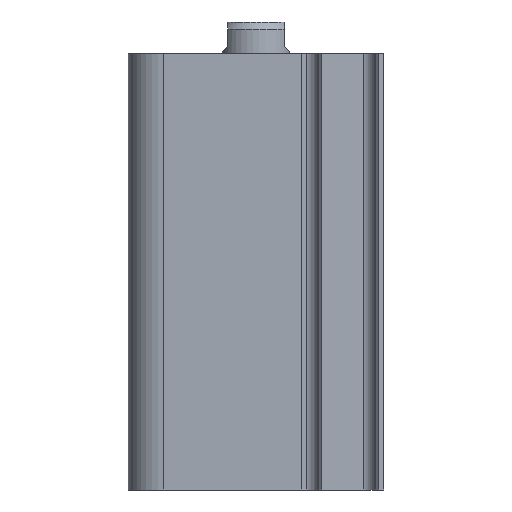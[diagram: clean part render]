
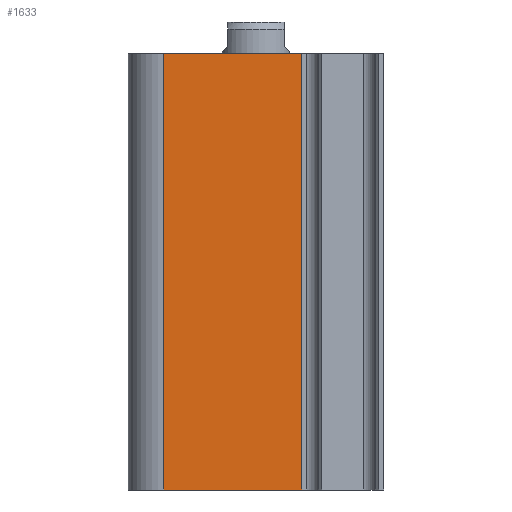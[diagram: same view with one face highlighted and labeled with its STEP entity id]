
A CAD part, front view. The second image highlights one B-rep face of the part: STEP entity #1633.
In plain terms, the highlighted planar face has unit normal (0, -1, 0).
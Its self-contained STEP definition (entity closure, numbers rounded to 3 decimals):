
#123 = ORIENTED_EDGE ( 'NONE', *, *, #2606, .T. ) ;
#443 = DIRECTION ( 'NONE',  ( 0., 0., 1. ) ) ;
#463 = VERTEX_POINT ( 'NONE', #2630 ) ;
#504 = VECTOR ( 'NONE', #862, 1000. ) ;
#512 = CARTESIAN_POINT ( 'NONE',  ( -13., -18., 30.75 ) ) ;
#796 = CARTESIAN_POINT ( 'NONE',  ( -13., -18., -30.75 ) ) ;
#862 = DIRECTION ( 'NONE',  ( -1., 0., 0. ) ) ;
#1019 = FACE_OUTER_BOUND ( 'NONE', #3140, .T. ) ;
#1219 = LINE ( 'NONE', #3635, #4696 ) ;
#1297 = ORIENTED_EDGE ( 'NONE', *, *, #1685, .F. ) ;
#1438 = PLANE ( 'NONE',  #2635 ) ;
#1512 = ORIENTED_EDGE ( 'NONE', *, *, #1552, .F. ) ;
#1531 = DIRECTION ( 'NONE',  ( 0., 0., 1. ) ) ;
#1552 = EDGE_CURVE ( 'NONE', #2148, #5190, #2494, .T. ) ;
#1633 = ADVANCED_FACE ( 'NONE', ( #1019 ), #1438, .F. ) ;
#1685 = EDGE_CURVE ( 'NONE', #2159, #463, #1809, .T. ) ;
#1809 = LINE ( 'NONE', #4874, #2205 ) ;
#1875 = ORIENTED_EDGE ( 'NONE', *, *, #5187, .T. ) ;
#1950 = DIRECTION ( 'NONE',  ( 1., 0., 0. ) ) ;
#2148 = VERTEX_POINT ( 'NONE', #2501 ) ;
#2159 = VERTEX_POINT ( 'NONE', #512 ) ;
#2205 = VECTOR ( 'NONE', #1950, 1000. ) ;
#2225 = DIRECTION ( 'NONE',  ( 0., 1., 0. ) ) ;
#2344 = VECTOR ( 'NONE', #4267, 1000. ) ;
#2494 = LINE ( 'NONE', #3752, #504 ) ;
#2501 = CARTESIAN_POINT ( 'NONE',  ( 6.466, -18., -30.75 ) ) ;
#2606 = EDGE_CURVE ( 'NONE', #2159, #5190, #4516, .T. ) ;
#2630 = CARTESIAN_POINT ( 'NONE',  ( 6.466, -18., 30.75 ) ) ;
#2635 = AXIS2_PLACEMENT_3D ( 'NONE', #2659, #2225, #1531 ) ;
#2659 = CARTESIAN_POINT ( 'NONE',  ( -13., -18., 81.662 ) ) ;
#3140 = EDGE_LOOP ( 'NONE', ( #1512, #1875, #1297, #123 ) ) ;
#3635 = CARTESIAN_POINT ( 'NONE',  ( 6.466, -18., 81.662 ) ) ;
#3752 = CARTESIAN_POINT ( 'NONE',  ( -13., -18., -30.75 ) ) ;
#4267 = DIRECTION ( 'NONE',  ( 0., 0., -1. ) ) ;
#4516 = LINE ( 'NONE', #5034, #2344 ) ;
#4696 = VECTOR ( 'NONE', #443, 1000. ) ;
#4874 = CARTESIAN_POINT ( 'NONE',  ( -13., -18., 30.75 ) ) ;
#5034 = CARTESIAN_POINT ( 'NONE',  ( -13., -18., 81.662 ) ) ;
#5187 = EDGE_CURVE ( 'NONE', #2148, #463, #1219, .T. ) ;
#5190 = VERTEX_POINT ( 'NONE', #796 ) ;
